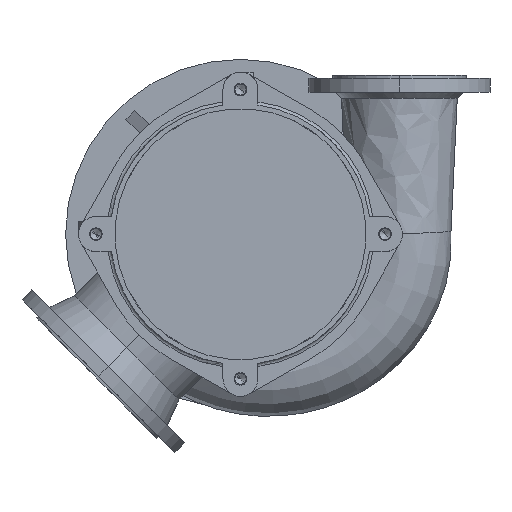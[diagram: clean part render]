
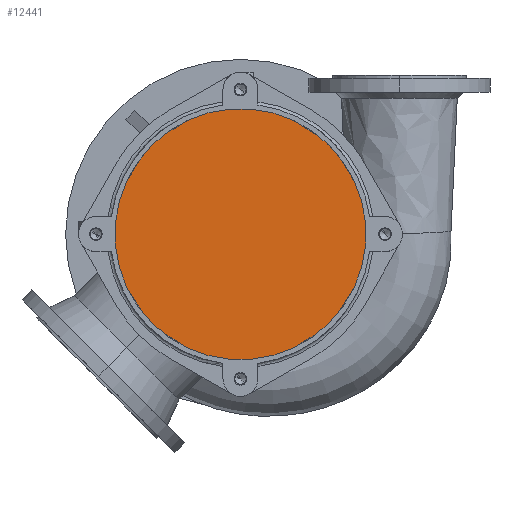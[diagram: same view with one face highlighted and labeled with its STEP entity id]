
A CAD part, front view. The second image highlights one B-rep face of the part: STEP entity #12441.
In plain terms, the highlighted planar face has unit normal (0, -1, 0).
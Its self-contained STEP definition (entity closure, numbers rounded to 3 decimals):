
#5762=CARTESIAN_POINT('',(0.,0.,0.));
#5763=DIRECTION('',(0.,-1.,0.));
#5764=DIRECTION('',(0.,0.,1.));
#5765=AXIS2_PLACEMENT_3D('',#5762,#5763,#5764);
#5767=CARTESIAN_POINT('',(0.,0.,0.));
#5768=DIRECTION('',(0.,-1.,0.));
#5769=DIRECTION('',(0.,0.,-1.));
#5770=AXIS2_PLACEMENT_3D('',#5767,#5768,#5769);
#11442=CARTESIAN_POINT('',(0.,0.,197.5));
#11443=CARTESIAN_POINT('',(0.,0.,-197.5));
#11444=VERTEX_POINT('',#11442);
#11445=VERTEX_POINT('',#11443);
#12430=CARTESIAN_POINT('',(0.,0.,0.));
#12431=DIRECTION('',(0.,1.,0.));
#12432=DIRECTION('',(0.,0.,-1.));
#12433=AXIS2_PLACEMENT_3D('',#12430,#12431,#12432);
#12434=PLANE('',#12433);
#12436=ORIENTED_EDGE('',*,*,#12435,.F.);
#12438=ORIENTED_EDGE('',*,*,#12437,.F.);
#12439=EDGE_LOOP('',(#12436,#12438));
#12440=FACE_OUTER_BOUND('',#12439,.F.);
#12441=ADVANCED_FACE('',(#12440),#12434,.F.);
#5766=CIRCLE('',#5765,197.5);
#5771=CIRCLE('',#5770,197.5);
#12435=EDGE_CURVE('',#11444,#11445,#5766,.T.);
#12437=EDGE_CURVE('',#11445,#11444,#5771,.T.);
